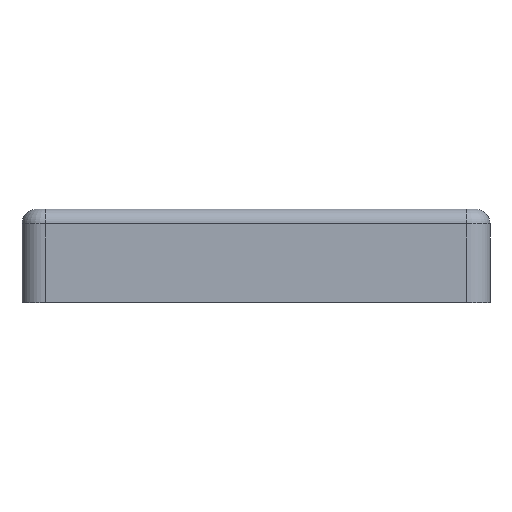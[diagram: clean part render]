
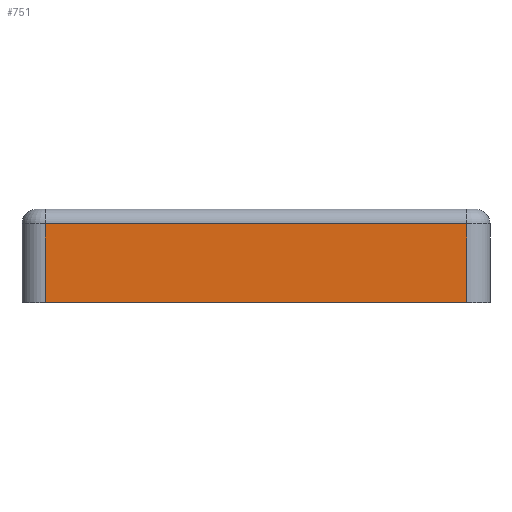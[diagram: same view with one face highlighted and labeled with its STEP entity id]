
A CAD part, left-side view. The second image highlights one B-rep face of the part: STEP entity #751.
In plain terms, the highlighted planar face has unit normal (-1, 0, 0).
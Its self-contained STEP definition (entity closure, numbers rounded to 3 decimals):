
#4 = LINE ( 'NONE', #880, #1259 ) ;
#14 = CARTESIAN_POINT ( 'NONE',  ( -40., 36., 13.5 ) ) ;
#40 = EDGE_CURVE ( 'NONE', #589, #717, #308, .T. ) ;
#46 = CARTESIAN_POINT ( 'NONE',  ( -40., -36., 0. ) ) ;
#94 = DIRECTION ( 'NONE',  ( 0., 0., 1. ) ) ;
#107 = ORIENTED_EDGE ( 'NONE', *, *, #116, .T. ) ;
#116 = EDGE_CURVE ( 'NONE', #840, #476, #4, .T. ) ;
#171 = EDGE_CURVE ( 'NONE', #589, #476, #538, .T. ) ;
#204 = CARTESIAN_POINT ( 'NONE',  ( -40., 36., 0. ) ) ;
#214 = VECTOR ( 'NONE', #1006, 1000. ) ;
#240 = CARTESIAN_POINT ( 'NONE',  ( -40., -40., 0. ) ) ;
#272 = EDGE_CURVE ( 'NONE', #717, #840, #777, .T. ) ;
#308 = LINE ( 'NONE', #892, #214 ) ;
#320 = AXIS2_PLACEMENT_3D ( 'NONE', #656, #1260, #94 ) ;
#350 = ORIENTED_EDGE ( 'NONE', *, *, #272, .T. ) ;
#355 = CARTESIAN_POINT ( 'NONE',  ( -40., -36., 13.5 ) ) ;
#369 = CARTESIAN_POINT ( 'NONE',  ( -40., 36., 13.5 ) ) ;
#476 = VERTEX_POINT ( 'NONE', #204 ) ;
#538 = LINE ( 'NONE', #240, #776 ) ;
#576 = FACE_OUTER_BOUND ( 'NONE', #930, .T. ) ;
#589 = VERTEX_POINT ( 'NONE', #46 ) ;
#629 = VECTOR ( 'NONE', #1252, 1000. ) ;
#644 = DIRECTION ( 'NONE',  ( 0., 1., 0. ) ) ;
#656 = CARTESIAN_POINT ( 'NONE',  ( -40., -40., 16. ) ) ;
#685 = DIRECTION ( 'NONE',  ( 0., 0., -1. ) ) ;
#717 = VERTEX_POINT ( 'NONE', #355 ) ;
#720 = ORIENTED_EDGE ( 'NONE', *, *, #40, .T. ) ;
#751 = ADVANCED_FACE ( 'NONE', ( #576 ), #871, .T. ) ;
#776 = VECTOR ( 'NONE', #644, 1000. ) ;
#777 = LINE ( 'NONE', #369, #629 ) ;
#840 = VERTEX_POINT ( 'NONE', #14 ) ;
#871 = PLANE ( 'NONE',  #320 ) ;
#880 = CARTESIAN_POINT ( 'NONE',  ( -40., 36., 16. ) ) ;
#892 = CARTESIAN_POINT ( 'NONE',  ( -40., -36., 16. ) ) ;
#930 = EDGE_LOOP ( 'NONE', ( #720, #350, #107, #1186 ) ) ;
#1006 = DIRECTION ( 'NONE',  ( 0., 0., 1. ) ) ;
#1186 = ORIENTED_EDGE ( 'NONE', *, *, #171, .F. ) ;
#1252 = DIRECTION ( 'NONE',  ( 0., 1., 0. ) ) ;
#1259 = VECTOR ( 'NONE', #685, 1000. ) ;
#1260 = DIRECTION ( 'NONE',  ( -1., 0., 0. ) ) ;
